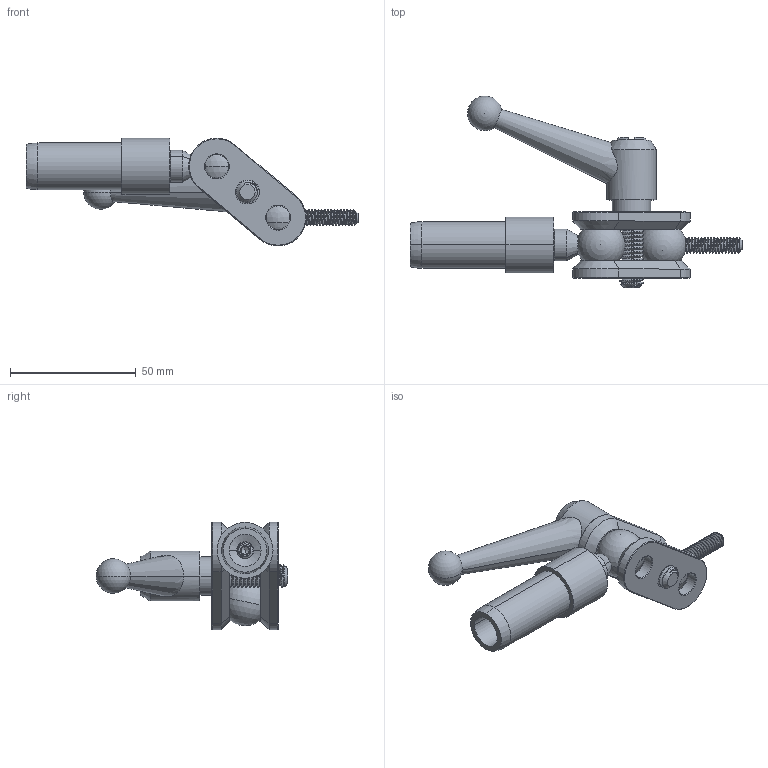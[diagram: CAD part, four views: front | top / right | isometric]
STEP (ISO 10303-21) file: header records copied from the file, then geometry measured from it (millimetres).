
FILE_DESCRIPTION (( 'STEP AP214' ), '1' );
FILE_NAME ('0.75 Inch Adjustable Swivel Mount Connector.STEP', '2014-01-09T15:35:25', ( 'ydmin' ), ( 'Microsoft' ), 'SwSTEP 2.0', 'SolidWorks 2013', '' );
FILE_SCHEMA (( 'AUTOMOTIVE_DESIGN' ));
Length unit declared in the file: inch
Products named in the file (1): 0.75 Inch Adjustable Swivel Mount Connector
Bounding box: 131.85 x 76.2 x 42.76 mm (x, y, z)
Volume: 48211 mm3; surface area: 24573.9 mm2
Topology: 12 solids, 12 shells, 466 faces, 1231 edges, 778 vertices
Faces by surface type: cylinder 242, cone 87, bspline 70, plane 59, sphere 6, torus 2
Entity records: 82986 total; most frequent: CARTESIAN_POINT 67235, ORIENTED_EDGE 2408, DIRECTION 1547, EDGE_CURVE 1204, VERTEX_POINT 769, AXIS2_PLACEMENT_3D 580, EDGE_LOOP 489, UNCERTAINTY_MEASURE_WITH_UNIT 480
